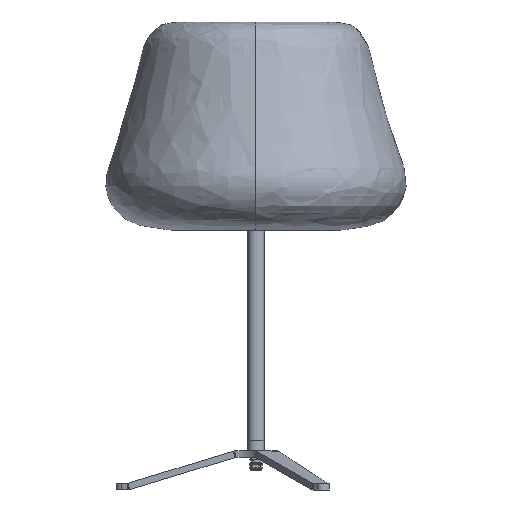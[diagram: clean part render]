
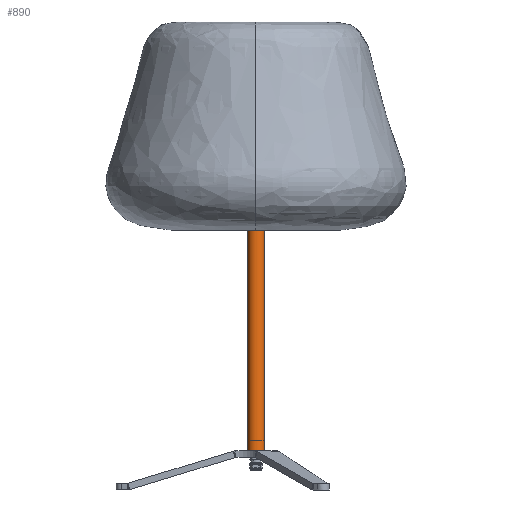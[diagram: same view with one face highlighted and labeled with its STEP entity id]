
A CAD part, left-side view. The second image highlights one B-rep face of the part: STEP entity #890.
In plain terms, the highlighted free-form (B-spline) face has degree [2, 1] with [9, 2] control points.
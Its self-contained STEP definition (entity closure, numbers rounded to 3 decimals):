
#340=B_SPLINE_CURVE_WITH_KNOTS('',1,(#13276,#13277),.UNSPECIFIED.,.F.,.F.,
(2,2),(0.,290.),.UNSPECIFIED.);
#341=B_SPLINE_CURVE_WITH_KNOTS('',1,(#13283,#13284),.UNSPECIFIED.,.F.,.F.,
(2,2),(0.,290.),.UNSPECIFIED.);
#890=ADVANCED_FACE('',(#1393),#6858,.T.);
#1393=FACE_OUTER_BOUND('',#1911,.T.);
#1911=EDGE_LOOP('',(#3147,#3148,#3149,#3150));
#3147=ORIENTED_EDGE('',*,*,#4867,.F.);
#3148=ORIENTED_EDGE('',*,*,#4870,.F.);
#3149=ORIENTED_EDGE('',*,*,#4869,.F.);
#3150=ORIENTED_EDGE('',*,*,#4871,.T.);
#4867=EDGE_CURVE('',#6383,#6384,#340,.T.);
#4869=EDGE_CURVE('',#6385,#6382,#341,.T.);
#4870=EDGE_CURVE('',#6382,#6383,#5693,.T.);
#4871=EDGE_CURVE('',#6385,#6384,#5694,.T.);
#5693=(
BOUNDED_CURVE()
B_SPLINE_CURVE(2,(#13285,#13286,#13287,#13288,#13289),.UNSPECIFIED.,.F.,
 .F.)
B_SPLINE_CURVE_WITH_KNOTS((3,2,3),(-31.416,-15.708,0.),
 .UNSPECIFIED.)
CURVE()
GEOMETRIC_REPRESENTATION_ITEM()
RATIONAL_B_SPLINE_CURVE((1.,0.707,1.,0.707,1.))
REPRESENTATION_ITEM('')
);
#5694=(
BOUNDED_CURVE()
B_SPLINE_CURVE(2,(#13290,#13291,#13292,#13293,#13294),.UNSPECIFIED.,.F.,
 .F.)
B_SPLINE_CURVE_WITH_KNOTS((3,2,3),(0.,15.708,31.416),
 .UNSPECIFIED.)
CURVE()
GEOMETRIC_REPRESENTATION_ITEM()
RATIONAL_B_SPLINE_CURVE((1.,0.707,1.,0.707,1.))
REPRESENTATION_ITEM('')
);
#6382=VERTEX_POINT('',#13253);
#6383=VERTEX_POINT('',#13254);
#6384=VERTEX_POINT('',#13255);
#6385=VERTEX_POINT('',#13256);
#6858=(
BOUNDED_SURFACE()
B_SPLINE_SURFACE(2,1,((#13213,#13214),(#13215,#13216),(#13217,#13218),(#13219,
#13220),(#13221,#13222),(#13223,#13224),(#13225,#13226),(#13227,#13228),
(#13229,#13230)),.UNSPECIFIED.,.T.,.F.,.F.)
B_SPLINE_SURFACE_WITH_KNOTS((3,2,2,2,3),(2,2),(0.,1.571,3.142,
4.712,6.283),(0.,348.),.UNSPECIFIED.)
GEOMETRIC_REPRESENTATION_ITEM()
RATIONAL_B_SPLINE_SURFACE(((1.,1.),(0.707,0.707),
(1.,1.),(0.707,0.707),(1.,1.),(0.707,
0.707),(1.,1.),(0.707,0.707),(1.,1.)))
REPRESENTATION_ITEM('')
SURFACE()
);
#13213=CARTESIAN_POINT('',(9.666,152.302,366.269));
#13214=CARTESIAN_POINT('',(9.666,152.302,18.269));
#13215=CARTESIAN_POINT('',(7.103,142.636,366.269));
#13216=CARTESIAN_POINT('',(7.103,142.636,18.269));
#13217=CARTESIAN_POINT('',(-2.563,145.198,366.269));
#13218=CARTESIAN_POINT('',(-2.563,145.198,18.269));
#13219=CARTESIAN_POINT('',(-12.229,147.761,366.269));
#13220=CARTESIAN_POINT('',(-12.229,147.761,18.269));
#13221=CARTESIAN_POINT('',(-9.666,157.427,366.269));
#13222=CARTESIAN_POINT('',(-9.666,157.427,18.269));
#13223=CARTESIAN_POINT('',(-7.103,167.093,366.269));
#13224=CARTESIAN_POINT('',(-7.103,167.093,18.269));
#13225=CARTESIAN_POINT('',(2.563,164.53,366.269));
#13226=CARTESIAN_POINT('',(2.563,164.53,18.269));
#13227=CARTESIAN_POINT('',(12.229,161.968,366.269));
#13228=CARTESIAN_POINT('',(12.229,161.968,18.269));
#13229=CARTESIAN_POINT('',(9.666,152.302,366.269));
#13230=CARTESIAN_POINT('',(9.666,152.302,18.269));
#13253=CARTESIAN_POINT('',(2.563,164.53,337.269));
#13254=CARTESIAN_POINT('',(-2.563,145.198,337.269));
#13255=CARTESIAN_POINT('',(-2.563,145.198,47.269));
#13256=CARTESIAN_POINT('',(2.563,164.53,47.269));
#13276=CARTESIAN_POINT('',(-2.563,145.198,337.269));
#13277=CARTESIAN_POINT('',(-2.563,145.198,47.269));
#13283=CARTESIAN_POINT('',(2.563,164.53,47.269));
#13284=CARTESIAN_POINT('',(2.563,164.53,337.269));
#13285=CARTESIAN_POINT('',(2.563,164.53,337.269));
#13286=CARTESIAN_POINT('',(-7.103,167.093,337.269));
#13287=CARTESIAN_POINT('',(-9.666,157.427,337.269));
#13288=CARTESIAN_POINT('',(-12.229,147.761,337.269));
#13289=CARTESIAN_POINT('',(-2.563,145.198,337.269));
#13290=CARTESIAN_POINT('',(2.563,164.53,47.269));
#13291=CARTESIAN_POINT('',(-7.103,167.093,47.269));
#13292=CARTESIAN_POINT('',(-9.666,157.427,47.269));
#13293=CARTESIAN_POINT('',(-12.229,147.761,47.269));
#13294=CARTESIAN_POINT('',(-2.563,145.198,47.269));
